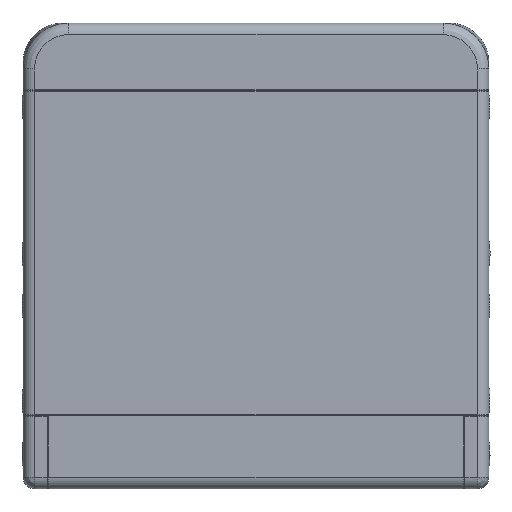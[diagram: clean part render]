
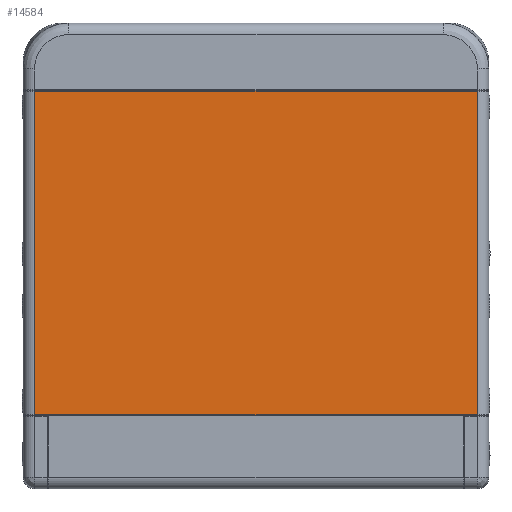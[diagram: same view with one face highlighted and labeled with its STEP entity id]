
A CAD part, front view. The second image highlights one B-rep face of the part: STEP entity #14584.
In plain terms, the highlighted planar face has unit normal (0, -1, 0).
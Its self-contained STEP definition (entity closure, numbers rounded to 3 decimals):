
#2196 = ORIENTED_EDGE ( 'NONE', *, *, #25622, .F. ) ;
#3483 = CARTESIAN_POINT ( 'NONE',  ( -193., -203., -138.605 ) ) ;
#3916 = CARTESIAN_POINT ( 'NONE',  ( -193., -203., 143.704 ) ) ;
#4746 = VERTEX_POINT ( 'NONE', #3916 ) ;
#7179 = VECTOR ( 'NONE', #14849, 1000. ) ;
#14584 = ADVANCED_FACE ( 'NONE', ( #34152 ), #21350, .F. ) ;
#14849 = DIRECTION ( 'NONE',  ( 0., 0., 1. ) ) ;
#16863 = AXIS2_PLACEMENT_3D ( 'NONE', #21084, #20848, #20732 ) ;
#20732 = DIRECTION ( 'NONE',  ( 0., 0., 1. ) ) ;
#20848 = DIRECTION ( 'NONE',  ( 0., 1., 0. ) ) ;
#21084 = CARTESIAN_POINT ( 'NONE',  ( 203., -203., 203. ) ) ;
#21350 = PLANE ( 'NONE',  #16863 ) ;
#21455 = VERTEX_POINT ( 'NONE', #50729 ) ;
#23137 = CARTESIAN_POINT ( 'NONE',  ( 193., -203., 143.704 ) ) ;
#23964 = LINE ( 'NONE', #40524, #25384 ) ;
#25384 = VECTOR ( 'NONE', #40145, 1000. ) ;
#25622 = EDGE_CURVE ( 'NONE', #21455, #42260, #23964, .T. ) ;
#27333 = ORIENTED_EDGE ( 'NONE', *, *, #31594, .F. ) ;
#27632 = LINE ( 'NONE', #40213, #52496 ) ;
#29926 = DIRECTION ( 'NONE',  ( 1., 0., 0. ) ) ;
#29981 = CARTESIAN_POINT ( 'NONE',  ( 203., -203., 143.704 ) ) ;
#31592 = LINE ( 'NONE', #36593, #7179 ) ;
#31594 = EDGE_CURVE ( 'NONE', #35350, #21455, #27632, .T. ) ;
#34152 = FACE_OUTER_BOUND ( 'NONE', #36050, .T. ) ;
#35350 = VERTEX_POINT ( 'NONE', #23137 ) ;
#36050 = EDGE_LOOP ( 'NONE', ( #2196, #27333, #53547, #39778 ) ) ;
#36593 = CARTESIAN_POINT ( 'NONE',  ( -193., -203., 203. ) ) ;
#37784 = EDGE_CURVE ( 'NONE', #42260, #4746, #31592, .T. ) ;
#38493 = EDGE_CURVE ( 'NONE', #4746, #35350, #49567, .T. ) ;
#39778 = ORIENTED_EDGE ( 'NONE', *, *, #37784, .F. ) ;
#40091 = DIRECTION ( 'NONE',  ( 0., 0., -1. ) ) ;
#40145 = DIRECTION ( 'NONE',  ( -1., 0., 0. ) ) ;
#40213 = CARTESIAN_POINT ( 'NONE',  ( 193., -203., 3. ) ) ;
#40524 = CARTESIAN_POINT ( 'NONE',  ( 203., -203., -138.605 ) ) ;
#42260 = VERTEX_POINT ( 'NONE', #3483 ) ;
#45827 = VECTOR ( 'NONE', #29926, 1000. ) ;
#49567 = LINE ( 'NONE', #29981, #45827 ) ;
#50729 = CARTESIAN_POINT ( 'NONE',  ( 193., -203., -138.605 ) ) ;
#52496 = VECTOR ( 'NONE', #40091, 1000. ) ;
#53547 = ORIENTED_EDGE ( 'NONE', *, *, #38493, .F. ) ;
